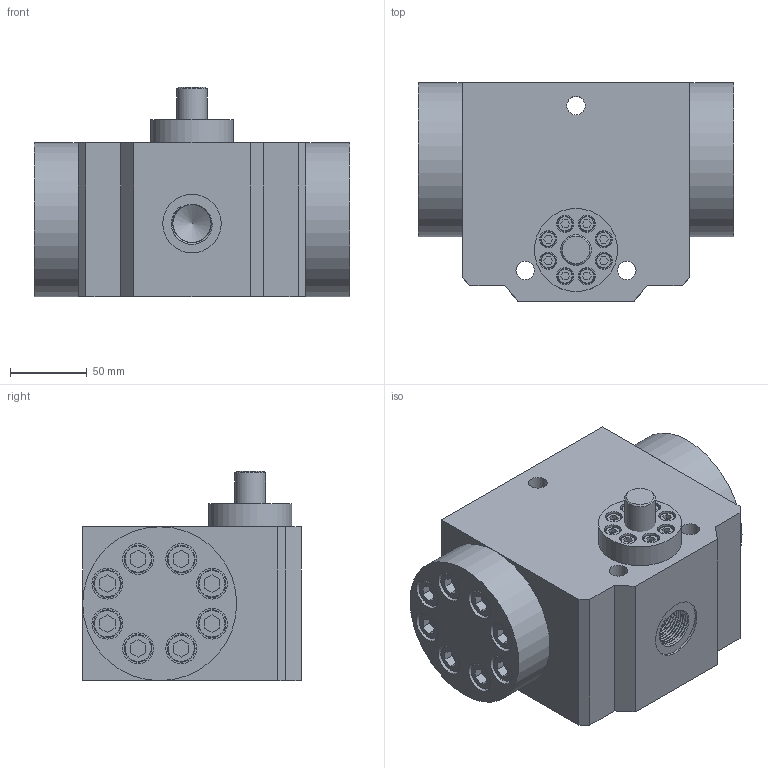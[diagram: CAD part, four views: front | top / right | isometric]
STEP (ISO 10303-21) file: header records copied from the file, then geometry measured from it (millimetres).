
FILE_DESCRIPTION(/* description */ (''),/* implementation_level */ '2;1');
FILE_NAME(/* name */ '3FJLz-L-40-160.stp',/* time_stamp */ '2023-05-04T11:34:17+08:00',/* author */ (''),/* organization */ (''),/* preprocessor_version */ 'ST-DEVELOPER v16.7',/* originating_system */ 'SIEMENS PLM Software NX 12.0',/* authorisation */ '');
FILE_SCHEMA (('AUTOMOTIVE_DESIGN { 1 0 10303 214 3 1 1 1 }'));
Length unit declared in the file: millimetre
Products named in the file (1): 1-3
Bounding box: 205 x 142 x 136 mm (x, y, z)
Volume: 2403692.5 mm3; surface area: 288878.4 mm2
Topology: 28 solids, 28 shells, 654 faces, 1581 edges, 1035 vertices
Faces by surface type: plane 385, cylinder 184, cone 52, torus 24, bspline 9
Full cylindrical faces by diameter (mm): 5 x8, 6 x8, 7 x8, 10 x8, 10.2 x16, 11 x8, 12 x19, 14 x16, 18 x16, 20 x17, 31 x2, 38 x1, 53.931 x1, 100 x2
Entity records: 34457 total; most frequent: CARTESIAN_POINT 19910, DIRECTION 2975, ORIENTED_EDGE 2514, EDGE_CURVE 1257, AXIS2_PLACEMENT_3D 1108, EDGE_LOOP 1038, VERTEX_POINT 968, LINE 759
